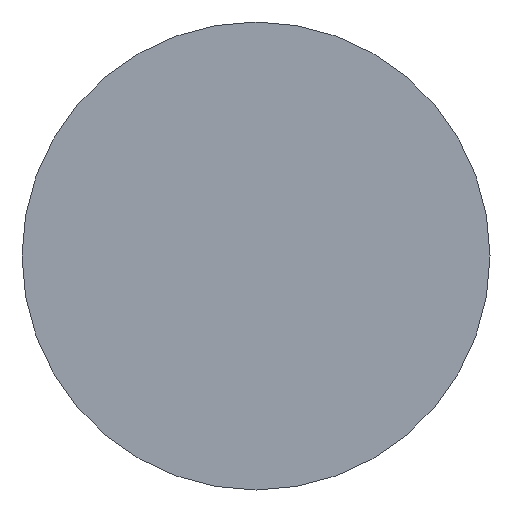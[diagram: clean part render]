
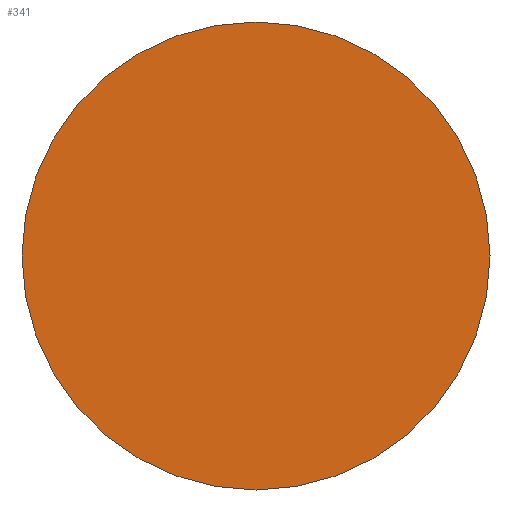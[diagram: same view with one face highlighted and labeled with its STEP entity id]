
A CAD part, front view. The second image highlights one B-rep face of the part: STEP entity #341.
In plain terms, the highlighted planar face has unit normal (0, -1, 0).
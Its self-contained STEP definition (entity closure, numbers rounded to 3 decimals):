
#11 = AXIS2_PLACEMENT_3D ( 'NONE', #58, #334, #276 ) ;
#58 = CARTESIAN_POINT ( 'NONE',  ( 0., 0., 0. ) ) ;
#86 = EDGE_CURVE ( 'NONE', #370, #370, #407, .T. ) ;
#89 = EDGE_LOOP ( 'NONE', ( #286 ) ) ;
#111 = CARTESIAN_POINT ( 'NONE',  ( 0., 0., 0. ) ) ;
#276 = DIRECTION ( 'NONE',  ( 0., 0., 1. ) ) ;
#286 = ORIENTED_EDGE ( 'NONE', *, *, #86, .F. ) ;
#292 = DIRECTION ( 'NONE',  ( 0., 0., 1. ) ) ;
#323 = FACE_OUTER_BOUND ( 'NONE', #89, .T. ) ;
#334 = DIRECTION ( 'NONE',  ( 0., 1., 0. ) ) ;
#337 = CARTESIAN_POINT ( 'NONE',  ( 0., 0., 25. ) ) ;
#341 = ADVANCED_FACE ( 'NONE', ( #323 ), #428, .F. ) ;
#365 = DIRECTION ( 'NONE',  ( 0., 1., 0. ) ) ;
#370 = VERTEX_POINT ( 'NONE', #337 ) ;
#372 = AXIS2_PLACEMENT_3D ( 'NONE', #111, #365, #292 ) ;
#407 = CIRCLE ( 'NONE', #11, 25. ) ;
#428 = PLANE ( 'NONE',  #372 ) ;
